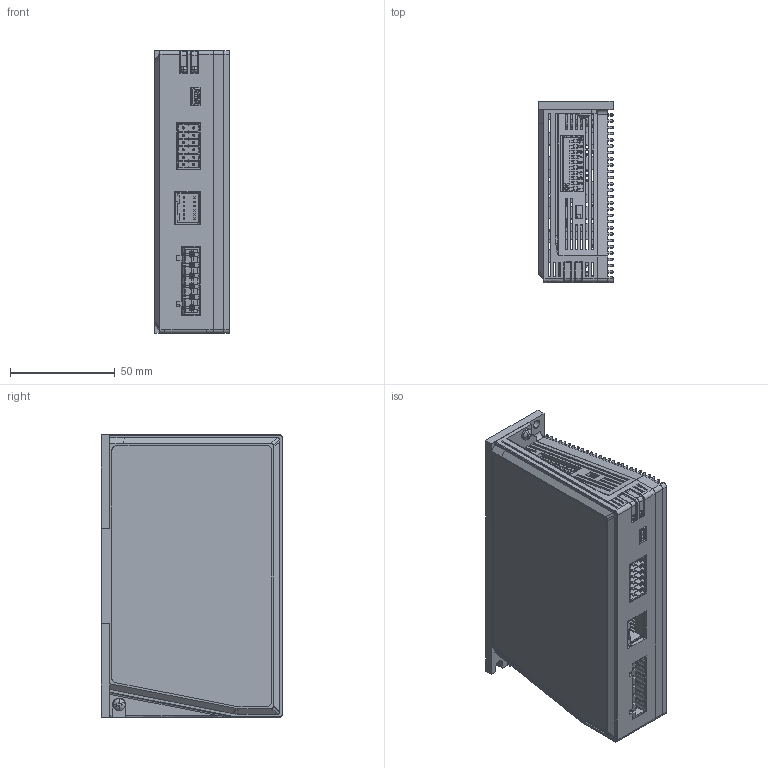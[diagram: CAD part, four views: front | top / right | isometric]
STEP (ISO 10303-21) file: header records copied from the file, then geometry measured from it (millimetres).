
FILE_DESCRIPTION(/* description */ (''),/* implementation_level */ '2;1');
FILE_NAME(/* name */ 'DP3F-8~2',/* time_stamp */ '2022-02-12T10:29:32+08:00',/* author */ (''),/* organization */ (''),/* preprocessor_version */ 'ST-DEVELOPER v15',/* originating_system */ '',/* authorisation */ '');
FILE_SCHEMA (('AUTOMOTIVE_DESIGN'));
Products named in the file (1): Document
Bounding box: 35.5 x 86.7 x 135 mm (x, y, z)
Surface area: 100613.3 mm2 (no closed solid volume)
Topology: 0 solids, 4410 shells, 4410 faces, 24707 edges, 24646 vertices
Faces by surface type: plane 3588, bspline 822
Entity records: 250866 total; most frequent: CARTESIAN_POINT 117100, ORIENTED_EDGE 24648, EDGE_CURVE 24648, VERTEX_POINT 24646, B_SPLINE_CURVE_WITH_KNOTS 21882, EDGE_LOOP 4706, PRESENTATION_LAYER_ASSIGNMENT 4410, SHELL_BASED_SURFACE_MODEL 4410
